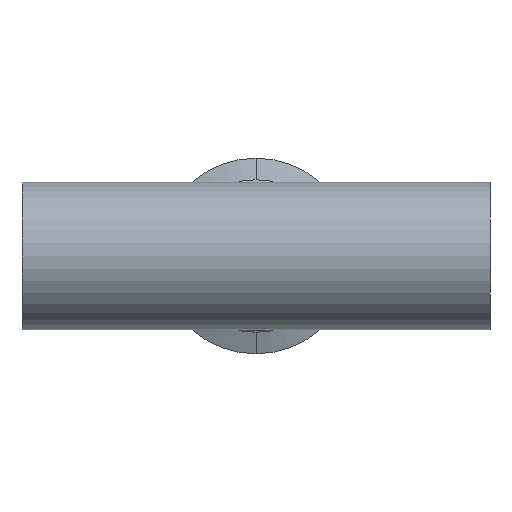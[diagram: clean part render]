
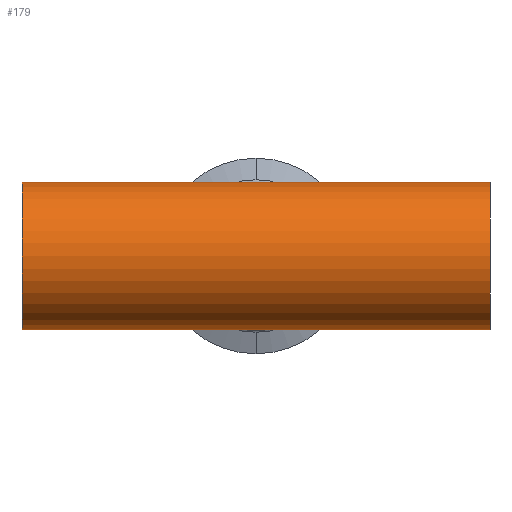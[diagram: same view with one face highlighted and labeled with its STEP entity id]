
A CAD part, front view. The second image highlights one B-rep face of the part: STEP entity #179.
In plain terms, the highlighted cylindrical face has radius 19.05 mm (diameter 38.1 mm), a partial arc.
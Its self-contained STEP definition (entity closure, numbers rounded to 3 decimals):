
#40 = DIRECTION ( 'NONE',  ( 0., 0., -1. ) ) ;
#52 = DIRECTION ( 'NONE',  ( 1., 0., 0. ) ) ;
#88 = CARTESIAN_POINT ( 'NONE',  ( 60.3, 0., 19.05 ) ) ;
#93 = VERTEX_POINT ( 'NONE', #187 ) ;
#100 = DIRECTION ( 'NONE',  ( 1., 0., 0. ) ) ;
#101 = VECTOR ( 'NONE', #554, 1000. ) ;
#114 = DIRECTION ( 'NONE',  ( -1., 0., 0. ) ) ;
#174 = CARTESIAN_POINT ( 'NONE',  ( -60.3, 0., -19.05 ) ) ;
#179 = ADVANCED_FACE ( 'NONE', ( #1040 ), #927, .T. ) ;
#182 = CARTESIAN_POINT ( 'NONE',  ( -60.3, 0., 19.05 ) ) ;
#187 = CARTESIAN_POINT ( 'NONE',  ( 0., 0., 19.05 ) ) ;
#201 = EDGE_CURVE ( 'NONE', #93, #460, #947, .T. ) ;
#209 = AXIS2_PLACEMENT_3D ( 'NONE', #1783, #114, #40 ) ;
#212 = CARTESIAN_POINT ( 'NONE',  ( 0., 0., -19.05 ) ) ;
#252 = EDGE_CURVE ( 'NONE', #663, #460, #771, .T. ) ;
#271 = CIRCLE ( 'NONE', #1714, 19.05 ) ;
#277 = CARTESIAN_POINT ( 'NONE',  ( -60.3, 0., 19.05 ) ) ;
#288 = VERTEX_POINT ( 'NONE', #174 ) ;
#312 = AXIS2_PLACEMENT_3D ( 'NONE', #607, #625, #592 ) ;
#409 = VECTOR ( 'NONE', #52, 1000. ) ;
#460 = VERTEX_POINT ( 'NONE', #88 ) ;
#554 = DIRECTION ( 'NONE',  ( 1., 0., 0. ) ) ;
#580 = CARTESIAN_POINT ( 'NONE',  ( -60.3, 0., 19.05 ) ) ;
#592 = DIRECTION ( 'NONE',  ( 0., 0., -1. ) ) ;
#598 = EDGE_CURVE ( 'NONE', #288, #1571, #1775, .T. ) ;
#607 = CARTESIAN_POINT ( 'NONE',  ( -60.3, 0., 0. ) ) ;
#625 = DIRECTION ( 'NONE',  ( 1., 0., 0. ) ) ;
#638 = CARTESIAN_POINT ( 'NONE',  ( -60.3, 0., -19.05 ) ) ;
#663 = VERTEX_POINT ( 'NONE', #1525 ) ;
#733 = ORIENTED_EDGE ( 'NONE', *, *, #201, .F. ) ;
#734 = DIRECTION ( 'NONE',  ( 1., 0., 0. ) ) ;
#771 = CIRCLE ( 'NONE', #209, 19.05 ) ;
#839 = EDGE_CURVE ( 'NONE', #1514, #93, #962, .T. ) ;
#865 = VECTOR ( 'NONE', #1378, 1000. ) ;
#919 = EDGE_CURVE ( 'NONE', #1571, #663, #1670, .T. ) ;
#927 = CYLINDRICAL_SURFACE ( 'NONE', #312, 19.05 ) ;
#947 = LINE ( 'NONE', #580, #865 ) ;
#962 = LINE ( 'NONE', #277, #409 ) ;
#1040 = FACE_OUTER_BOUND ( 'NONE', #1704, .T. ) ;
#1114 = CARTESIAN_POINT ( 'NONE',  ( -60.3, 0., -19.05 ) ) ;
#1378 = DIRECTION ( 'NONE',  ( 1., 0., 0. ) ) ;
#1465 = ORIENTED_EDGE ( 'NONE', *, *, #598, .T. ) ;
#1492 = ORIENTED_EDGE ( 'NONE', *, *, #252, .T. ) ;
#1514 = VERTEX_POINT ( 'NONE', #182 ) ;
#1525 = CARTESIAN_POINT ( 'NONE',  ( 60.3, 0., -19.05 ) ) ;
#1562 = ORIENTED_EDGE ( 'NONE', *, *, #1729, .T. ) ;
#1571 = VERTEX_POINT ( 'NONE', #212 ) ;
#1590 = CARTESIAN_POINT ( 'NONE',  ( -60.3, 0., 0. ) ) ;
#1619 = ORIENTED_EDGE ( 'NONE', *, *, #919, .T. ) ;
#1670 = LINE ( 'NONE', #638, #101 ) ;
#1688 = VECTOR ( 'NONE', #100, 1000. ) ;
#1704 = EDGE_LOOP ( 'NONE', ( #1818, #1562, #1465, #1619, #1492, #733 ) ) ;
#1714 = AXIS2_PLACEMENT_3D ( 'NONE', #1590, #734, #1737 ) ;
#1729 = EDGE_CURVE ( 'NONE', #1514, #288, #271, .T. ) ;
#1737 = DIRECTION ( 'NONE',  ( 0., 0., -1. ) ) ;
#1775 = LINE ( 'NONE', #1114, #1688 ) ;
#1783 = CARTESIAN_POINT ( 'NONE',  ( 60.3, 0., 0. ) ) ;
#1818 = ORIENTED_EDGE ( 'NONE', *, *, #839, .F. ) ;
